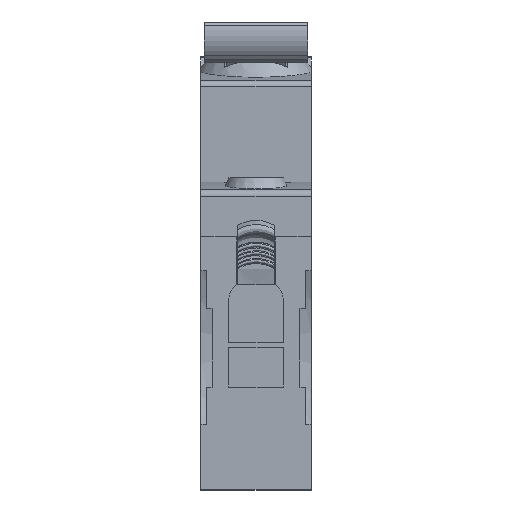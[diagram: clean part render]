
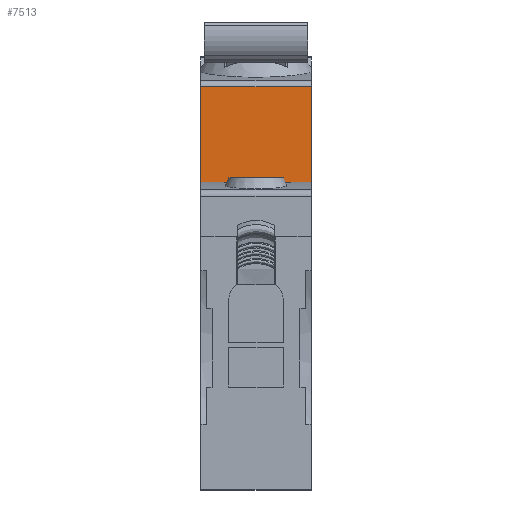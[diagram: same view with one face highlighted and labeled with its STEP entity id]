
A CAD part, front view. The second image highlights one B-rep face of the part: STEP entity #7513.
In plain terms, the highlighted planar face has unit normal (0, -1, 0).
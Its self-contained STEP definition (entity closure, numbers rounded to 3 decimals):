
#695=LINE('',#12523,#1517);
#759=LINE('',#12684,#1581);
#1000=LINE('',#13208,#1822);
#1001=LINE('',#13210,#1823);
#1517=VECTOR('',#9160,1000.);
#1581=VECTOR('',#9288,1000.);
#1822=VECTOR('',#9707,1000.);
#1823=VECTOR('',#9710,1000.);
#3685=ORIENTED_EDGE('',*,*,#4769,.F.);
#3686=ORIENTED_EDGE('',*,*,#5031,.T.);
#3687=ORIENTED_EDGE('',*,*,#4688,.F.);
#3688=ORIENTED_EDGE('',*,*,#5030,.F.);
#4688=EDGE_CURVE('',#5581,#5582,#695,.T.);
#4769=EDGE_CURVE('',#5646,#5647,#759,.T.);
#5030=EDGE_CURVE('',#5647,#5581,#1000,.T.);
#5031=EDGE_CURVE('',#5646,#5582,#1001,.T.);
#5581=VERTEX_POINT('',#12522);
#5582=VERTEX_POINT('',#12524);
#5646=VERTEX_POINT('',#12683);
#5647=VERTEX_POINT('',#12685);
#6362=EDGE_LOOP('',(#3685,#3686,#3687,#3688));
#6792=FACE_BOUND('',#6362,.T.);
#7137=PLANE('',#8057);
#7513=ADVANCED_FACE('',(#6792),#7137,.T.);
#8057=AXIS2_PLACEMENT_3D('',#13209,#9708,#9709);
#9160=DIRECTION('',(0.,0.,1.));
#9288=DIRECTION('',(0.,0.,-1.));
#9707=DIRECTION('',(-1.,0.,0.));
#9708=DIRECTION('',(0.,-1.,0.));
#9709=DIRECTION('',(-1.,0.,0.));
#9710=DIRECTION('',(-1.,0.,0.));
#12522=CARTESIAN_POINT('',(1.954,23.742,49.308));
#12523=CARTESIAN_POINT('',(1.954,23.744,64.657));
#12524=CARTESIAN_POINT('',(1.954,23.744,64.657));
#12683=CARTESIAN_POINT('',(19.654,23.744,64.657));
#12684=CARTESIAN_POINT('',(19.654,23.741,33.822));
#12685=CARTESIAN_POINT('',(19.654,23.742,49.308));
#13208=CARTESIAN_POINT('',(1.954,23.742,49.308));
#13209=CARTESIAN_POINT('',(1.954,23.744,64.657));
#13210=CARTESIAN_POINT('',(1.954,23.744,64.657));
